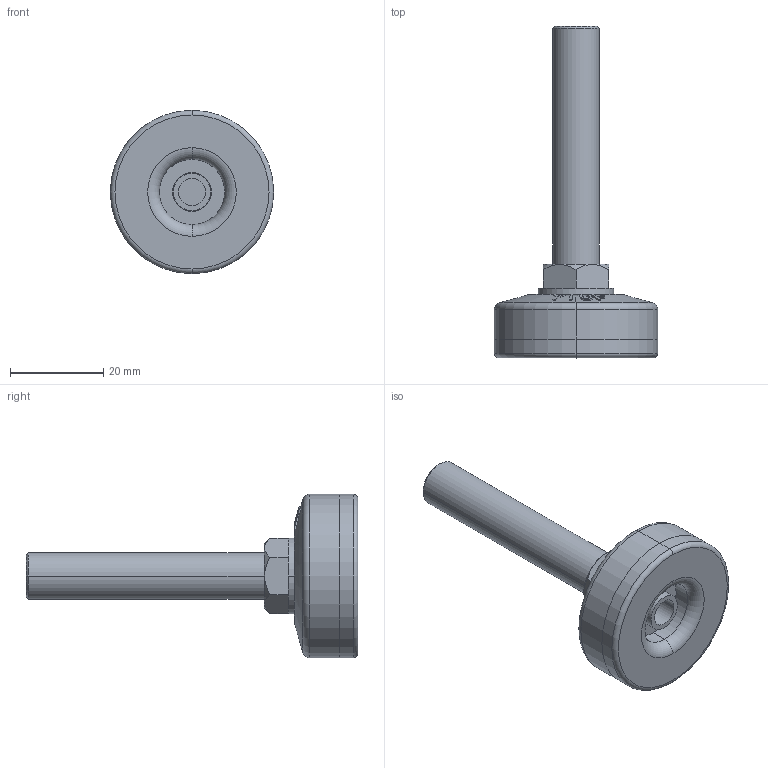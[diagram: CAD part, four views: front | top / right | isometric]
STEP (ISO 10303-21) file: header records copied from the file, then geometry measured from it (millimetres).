
FILE_DESCRIPTION (( 'STEP AP203' ), '1' );
FILE_NAME ('Q-35-1051-PA.STEP', '2020-09-11T06:35:12', ( '' ), ( '' ), 'SwSTEP 2.0', 'SolidWorks 2016', '' );
FILE_SCHEMA (( 'CONFIG_CONTROL_DESIGN' ));
Length unit declared in the file: millimetre
Products named in the file (4): S倰覃誹褐_35菁菜; Q-35-1051-PA; S倰覃誹褐_35裔赽; 穩諉蹟裝M10炵蹈_M10X51
Assembly tree (3 placements, depth 2):
  Q-35-1051-PA
    S倰覃誹褐_35菁菜
    S倰覃誹褐_35裔赽
    穩諉蹟裝M10炵蹈_M10X51
Bounding box: 35 x 71.1 x 35 mm (x, y, z)
Volume: 12493 mm3; surface area: 10245.7 mm2
Topology: 3 solids, 3 shells, 113 faces, 259 edges, 166 vertices
Faces by surface type: bspline 38, cylinder 26, plane 21, cone 16, torus 12
Entity records: 6649 total; most frequent: CARTESIAN_POINT 3954, ORIENTED_EDGE 518, DIRECTION 383, EDGE_CURVE 259, AXIS2_PLACEMENT_3D 167, VERTEX_POINT 166, EDGE_LOOP 131, B_SPLINE_CURVE_WITH_KNOTS 124
